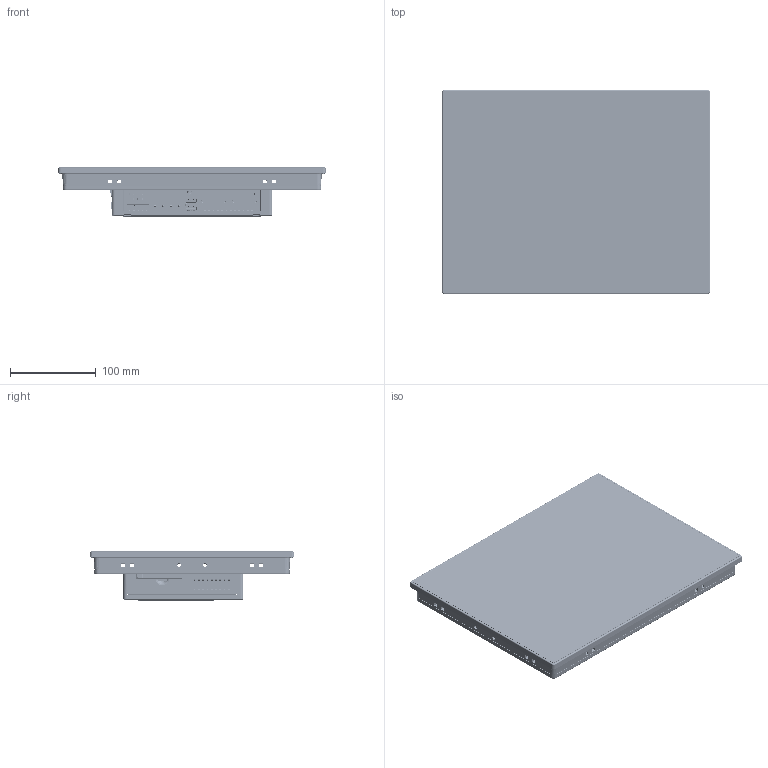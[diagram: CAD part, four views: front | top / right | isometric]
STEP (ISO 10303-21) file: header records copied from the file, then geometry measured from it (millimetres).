
FILE_DESCRIPTION (( 'STEP AP203' ), '1' );
FILE_NAME ('Final-asm-TPC-1251T-STEP.STEP', '2016-04-22T08:26:56', ( 'itd.mis' ), ( '' ), 'SwSTEP 2.0', 'SolidWorks 2013', '' );
FILE_SCHEMA (( 'CONFIG_CONTROL_DESIGN' ));
Products named in the file (1): Final-asm-TPC-1251T-STEP
Bounding box: 311.8 x 238 x 57.3 mm (x, y, z)
Volume: 444006.3 mm3; surface area: 690429 mm2
Topology: 46 solids, 46 shells, 7167 faces, 19355 edges, 12433 vertices
Faces by surface type: plane 3735, cylinder 2377, bspline 611, torus 228, cone 204, sphere 12
Entity records: 285890 total; most frequent: CARTESIAN_POINT 107921, ORIENTED_EDGE 38692, DIRECTION 34852, EDGE_CURVE 19346, LINE 12478, VECTOR 12478, VERTEX_POINT 12433, AXIS2_PLACEMENT_3D 11187
